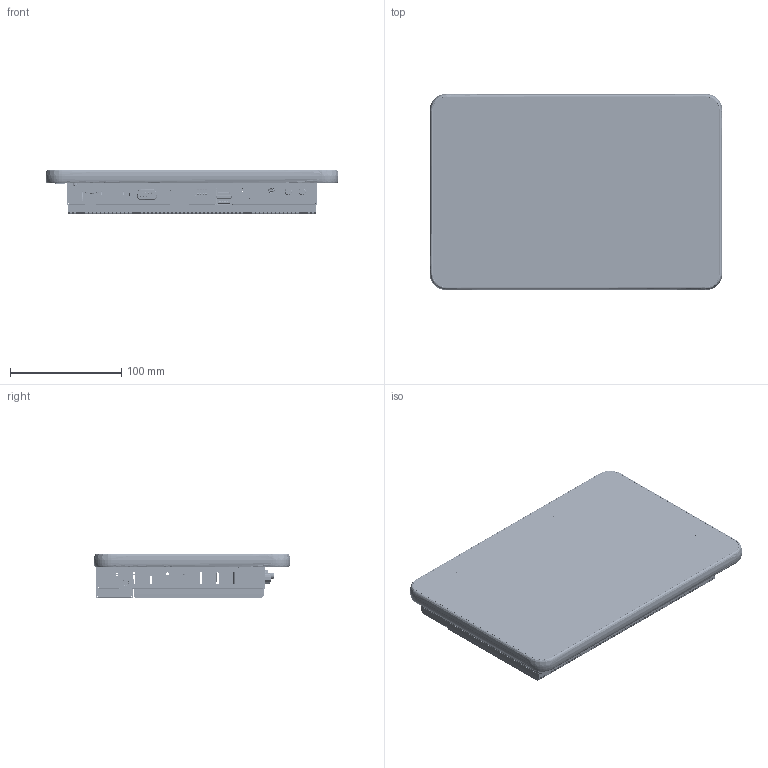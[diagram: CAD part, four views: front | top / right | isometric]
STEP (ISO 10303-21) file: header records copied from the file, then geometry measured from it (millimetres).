
FILE_DESCRIPTION((''),'2;1');
FILE_NAME('AS4C-101','2026-06-02T11:00:58',('gijyu181'),(''),'CREO PARAMETRIC BY PTC INC, 2018050','CREO PARAMETRIC BY PTC INC, 2018050','');
FILE_SCHEMA(('CONFIG_CONTROL_DESIGN','SHAPE_APPEARANCE_LAYERS_GROUPS'));
Products named in the file (1): AS4C-101
Bounding box: 263 x 176.14 x 40 mm (x, y, z)
Volume: 617671.9 mm3; surface area: 545650.1 mm2
Topology: 56 solids, 95 shells, 21861 faces, 64348 edges, 42441 vertices
Faces by surface type: plane 15414, cylinder 4504, extrusion 1240, cone 253, bspline 173, torus 157, sphere 100, revolution 20
Entity records: 839207 total; most frequent: CARTESIAN_POINT 154692, ORIENTED_EDGE 128364, DIRECTION 112773, EDGE_CURVE 64276, VECTOR 52047, LINE 50807, VERTEX_POINT 42439, AXIS2_PLACEMENT_3D 30353
